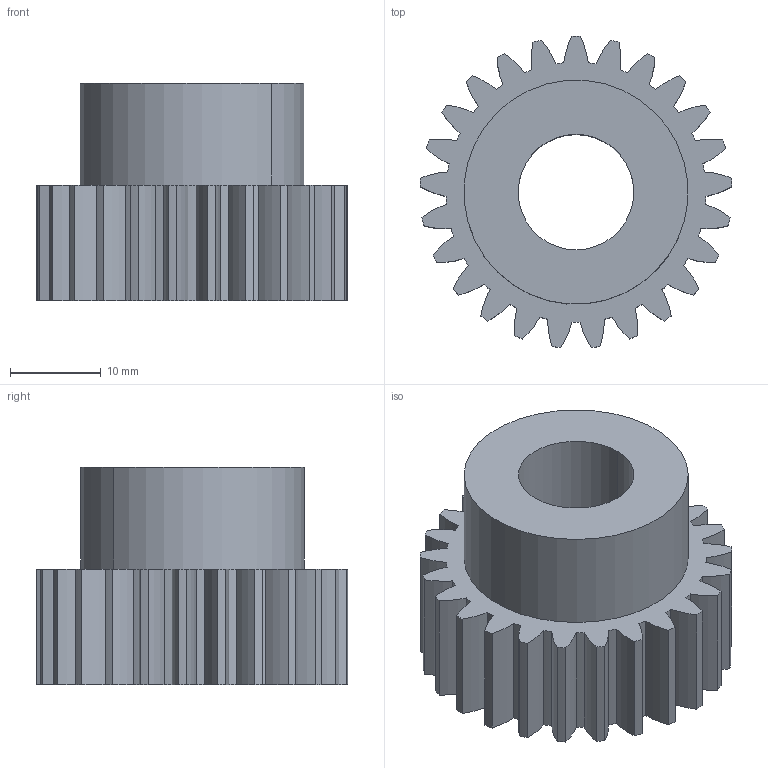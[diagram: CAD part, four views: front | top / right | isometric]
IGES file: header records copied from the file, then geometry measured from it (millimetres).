
Global section: file name: C:\Documents and Settings\Administrator\Desktop\Transfer Temp\gss-2025.igs; native system: AutoDesk Inventor R2.0 ; preprocessor: AutoDesk Inventor Iges Exporter R2.0; author: No Author specified; organization: No Organization specified; date: 20011229.165603; units: inch
Bounding box: 34.27 x 34.21 x 23.88 mm (x, y, z)
Surface area: 5661.9 mm2 (no closed solid volume)
Topology: 0 solids, 0 shells, 107 faces, 624 edges, 624 vertices
Faces by surface type: revolution 102, bspline 5
